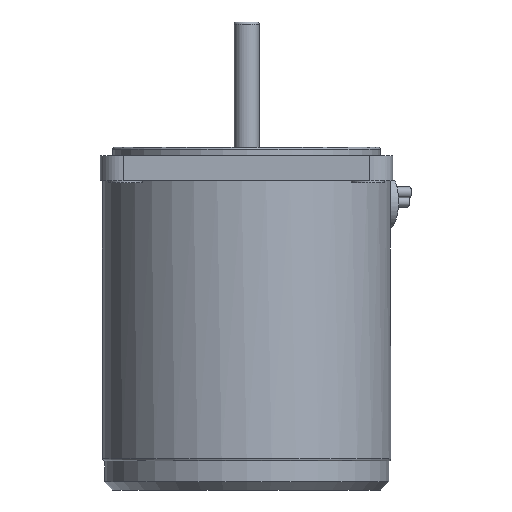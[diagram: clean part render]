
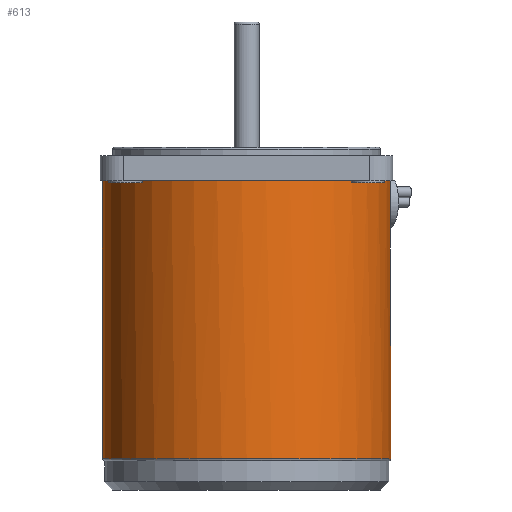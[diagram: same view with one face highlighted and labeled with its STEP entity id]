
A CAD part, front view. The second image highlights one B-rep face of the part: STEP entity #613.
In plain terms, the highlighted cylindrical face has radius 34.5 mm (diameter 69 mm), a full revolution.
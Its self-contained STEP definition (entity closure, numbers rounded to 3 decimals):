
#524=CARTESIAN_POINT('',(30.053,16.944,74.));
#525=VERTEX_POINT('',#524);
#526=CARTESIAN_POINT('',(33.231,9.269,74.));
#527=VERTEX_POINT('',#526);
#528=CARTESIAN_POINT('',(30.053,16.944,74.));
#529=CARTESIAN_POINT('',(29.976,17.08,73.871));
#530=CARTESIAN_POINT('',(29.901,17.21,73.735));
#531=CARTESIAN_POINT('',(29.539,17.834,73.02));
#532=CARTESIAN_POINT('',(29.271,18.264,72.291));
#533=CARTESIAN_POINT('',(28.909,18.832,70.69));
#534=CARTESIAN_POINT('',(28.816,18.971,69.818));
#535=CARTESIAN_POINT('',(28.816,18.971,68.182));
#536=CARTESIAN_POINT('',(28.909,18.832,67.31));
#537=CARTESIAN_POINT('',(29.271,18.264,65.709));
#538=CARTESIAN_POINT('',(29.539,17.834,64.98));
#539=CARTESIAN_POINT('',(30.123,16.829,63.828));
#540=CARTESIAN_POINT('',(30.478,16.186,63.328));
#541=CARTESIAN_POINT('',(31.198,14.751,62.664));
#542=CARTESIAN_POINT('',(31.561,13.959,62.5));
#543=CARTESIAN_POINT('',(32.187,12.447,62.5));
#544=CARTESIAN_POINT('',(32.491,11.629,62.664));
#545=CARTESIAN_POINT('',(32.996,10.106,63.328));
#546=CARTESIAN_POINT('',(33.2,9.4,63.828));
#547=CARTESIAN_POINT('',(33.498,8.277,64.98));
#548=CARTESIAN_POINT('',(33.612,7.783,65.709));
#549=CARTESIAN_POINT('',(33.758,7.125,67.31));
#550=CARTESIAN_POINT('',(33.79,6.961,68.182));
#551=CARTESIAN_POINT('',(33.79,6.961,69.0));
#552=CARTESIAN_POINT('',(33.79,6.961,69.818));
#553=CARTESIAN_POINT('',(33.758,7.125,70.69));
#554=CARTESIAN_POINT('',(33.612,7.783,72.291));
#555=CARTESIAN_POINT('',(33.498,8.277,73.02));
#556=CARTESIAN_POINT('',(33.313,8.974,73.735));
#557=CARTESIAN_POINT('',(33.274,9.118,73.871));
#558=CARTESIAN_POINT('',(33.231,9.269,74.0));
#559=B_SPLINE_CURVE_WITH_KNOTS('',3,(#528,#529,#530,#531,#532,#533,#534,#535,#536,#537,#538,#539,#540,#541,#542,#543,#544,#545,#546,#547,#548,#549,#550,#551,#552,#553,#554,#555,#556,#557,#558),.UNSPECIFIED.,.F.,.U.,(4,2,2,2,2,2,2,2,2,2,2,3,2,2,4),(-2.514,-2.455,-2.209,-1.964,-1.718,-1.473,-1.227,-0.982,-0.736,-0.491,-0.245,0.,0.245,0.491,0.55),.UNSPECIFIED.);
#560=EDGE_CURVE('',#525,#527,#559,.T.);
#587=CARTESIAN_POINT('',(0.0,0.0,0.0));
#588=DIRECTION('',(0.0,0.0,1.0));
#589=DIRECTION('',(-1.0,0.0,0.0));
#590=AXIS2_PLACEMENT_3D('',#587,#588,#589);
#591=CYLINDRICAL_SURFACE('',#590,34.5);
#592=CARTESIAN_POINT('',(-34.5,0.,7.5));
#593=VERTEX_POINT('',#592);
#594=CARTESIAN_POINT('',(0.0,0.0,7.5));
#595=DIRECTION('',(0.0,0.0,-1.0));
#596=DIRECTION('',(1.0,0.0,0.0));
#597=AXIS2_PLACEMENT_3D('',#594,#595,#596);
#598=CIRCLE('',#597,34.5);
#599=EDGE_CURVE('',#593,#593,#598,.T.);
#600=ORIENTED_EDGE('',*,*,#599,.F.);
#601=EDGE_LOOP('',(#600));
#602=FACE_OUTER_BOUND('',#601,.T.);
#603=ORIENTED_EDGE('',*,*,#560,.T.);
#604=CARTESIAN_POINT('',(0.0,0.0,74.0));
#605=DIRECTION('',(0.0,0.0,-1.0));
#606=DIRECTION('',(-1.0,0.0,0.0));
#607=AXIS2_PLACEMENT_3D('',#604,#605,#606);
#608=CIRCLE('',#607,34.5);
#609=EDGE_CURVE('',#527,#525,#608,.T.);
#610=ORIENTED_EDGE('',*,*,#609,.T.);
#611=EDGE_LOOP('',(#603,#610));
#612=FACE_BOUND('',#611,.T.);
#613=ADVANCED_FACE('',(#602,#612),#591,.T.);
